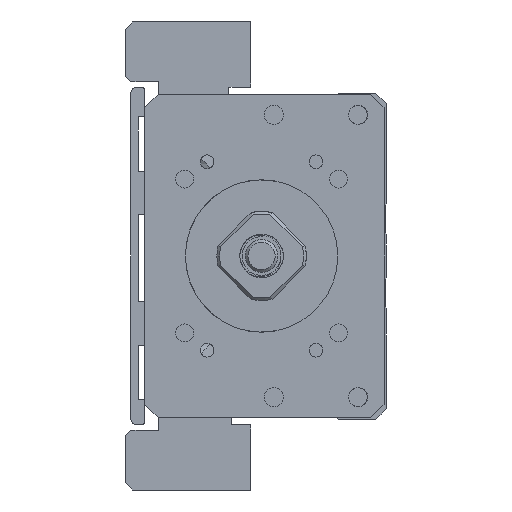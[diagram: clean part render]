
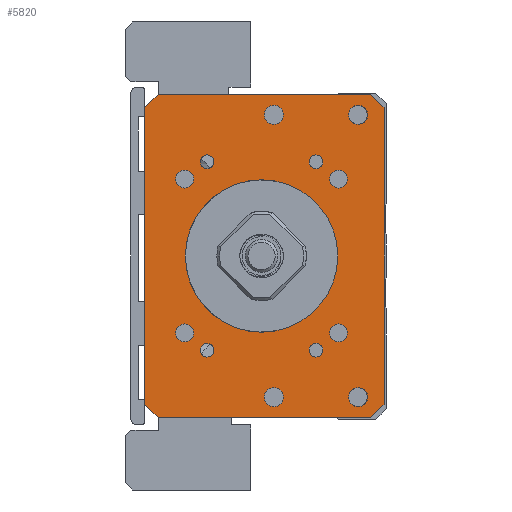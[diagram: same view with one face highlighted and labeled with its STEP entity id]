
A CAD part, left-side view. The second image highlights one B-rep face of the part: STEP entity #5820.
In plain terms, the highlighted planar face has unit normal (-1, 0, 0).
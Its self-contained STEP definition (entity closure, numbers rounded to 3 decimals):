
#4654=FACE_BOUND('',#7598,.T.);
#4655=FACE_BOUND('',#7599,.T.);
#4656=FACE_BOUND('',#7600,.T.);
#4657=FACE_BOUND('',#7601,.T.);
#4658=FACE_BOUND('',#7602,.T.);
#4659=FACE_BOUND('',#7603,.T.);
#4660=FACE_BOUND('',#7604,.T.);
#4661=FACE_BOUND('',#7605,.T.);
#4662=FACE_BOUND('',#7606,.T.);
#4663=FACE_BOUND('',#7607,.T.);
#4664=FACE_BOUND('',#7608,.T.);
#4665=FACE_BOUND('',#7609,.T.);
#4666=FACE_BOUND('',#7610,.T.);
#4667=FACE_BOUND('',#7611,.T.);
#5186=CIRCLE('',#16341,14.);
#5195=CIRCLE('',#16352,1.65);
#5196=CIRCLE('',#16353,1.65);
#5197=CIRCLE('',#16354,1.65);
#5198=CIRCLE('',#16355,1.65);
#5199=CIRCLE('',#16356,1.25);
#5200=CIRCLE('',#16357,1.75);
#5201=CIRCLE('',#16358,1.25);
#5202=CIRCLE('',#16359,1.75);
#5203=CIRCLE('',#16360,1.25);
#5204=CIRCLE('',#16361,1.75);
#5205=CIRCLE('',#16362,1.75);
#5206=CIRCLE('',#16363,1.25);
#5820=ADVANCED_FACE('',(#4654,#4655,#4656,#4657,#4658,#4659,#4660,#4661,
#4662,#4663,#4664,#4665,#4666,#4667),#6329,.F.);
#6329=PLANE('',#16364);
#7598=EDGE_LOOP('',(#10256));
#7599=EDGE_LOOP('',(#10257));
#7600=EDGE_LOOP('',(#10258));
#7601=EDGE_LOOP('',(#10259));
#7602=EDGE_LOOP('',(#10260));
#7603=EDGE_LOOP('',(#10261));
#7604=EDGE_LOOP('',(#10262));
#7605=EDGE_LOOP('',(#10263));
#7606=EDGE_LOOP('',(#10264));
#7607=EDGE_LOOP('',(#10265,#10266,#10267,#10268,#10269,#10270,#10271,#10272));
#7608=EDGE_LOOP('',(#10273));
#7609=EDGE_LOOP('',(#10274));
#7610=EDGE_LOOP('',(#10275));
#7611=EDGE_LOOP('',(#10276));
#10256=ORIENTED_EDGE('',*,*,#13238,.F.);
#10257=ORIENTED_EDGE('',*,*,#13239,.F.);
#10258=ORIENTED_EDGE('',*,*,#13240,.F.);
#10259=ORIENTED_EDGE('',*,*,#13241,.F.);
#10260=ORIENTED_EDGE('',*,*,#13242,.F.);
#10261=ORIENTED_EDGE('',*,*,#13243,.T.);
#10262=ORIENTED_EDGE('',*,*,#13244,.F.);
#10263=ORIENTED_EDGE('',*,*,#13245,.F.);
#10264=ORIENTED_EDGE('',*,*,#13246,.F.);
#10265=ORIENTED_EDGE('',*,*,#13235,.T.);
#10266=ORIENTED_EDGE('',*,*,#13247,.T.);
#10267=ORIENTED_EDGE('',*,*,#13248,.F.);
#10268=ORIENTED_EDGE('',*,*,#13249,.T.);
#10269=ORIENTED_EDGE('',*,*,#13250,.F.);
#10270=ORIENTED_EDGE('',*,*,#13251,.T.);
#10271=ORIENTED_EDGE('',*,*,#13252,.T.);
#10272=ORIENTED_EDGE('',*,*,#13253,.T.);
#10273=ORIENTED_EDGE('',*,*,#13254,.F.);
#10274=ORIENTED_EDGE('',*,*,#13255,.F.);
#10275=ORIENTED_EDGE('',*,*,#13256,.F.);
#10276=ORIENTED_EDGE('',*,*,#13215,.F.);
#11790=VERTEX_POINT('',#22938);
#11810=VERTEX_POINT('',#22998);
#11811=VERTEX_POINT('',#23000);
#11813=VERTEX_POINT('',#23006);
#11814=VERTEX_POINT('',#23008);
#11815=VERTEX_POINT('',#23010);
#11816=VERTEX_POINT('',#23012);
#11817=VERTEX_POINT('',#23014);
#11818=VERTEX_POINT('',#23016);
#11819=VERTEX_POINT('',#23018);
#11820=VERTEX_POINT('',#23020);
#11821=VERTEX_POINT('',#23022);
#11822=VERTEX_POINT('',#23024);
#11823=VERTEX_POINT('',#23026);
#11824=VERTEX_POINT('',#23028);
#11825=VERTEX_POINT('',#23030);
#11826=VERTEX_POINT('',#23032);
#11827=VERTEX_POINT('',#23034);
#11828=VERTEX_POINT('',#23037);
#11829=VERTEX_POINT('',#23039);
#11830=VERTEX_POINT('',#23041);
#13215=EDGE_CURVE('',#11790,#11790,#5186,.T.);
#13235=EDGE_CURVE('',#11811,#11810,#14399,.T.);
#13238=EDGE_CURVE('',#11813,#11813,#5195,.T.);
#13239=EDGE_CURVE('',#11814,#11814,#5196,.T.);
#13240=EDGE_CURVE('',#11815,#11815,#5197,.T.);
#13241=EDGE_CURVE('',#11816,#11816,#5198,.T.);
#13242=EDGE_CURVE('',#11817,#11817,#5199,.T.);
#13243=EDGE_CURVE('',#11818,#11818,#5200,.T.);
#13244=EDGE_CURVE('',#11819,#11819,#5201,.T.);
#13245=EDGE_CURVE('',#11820,#11820,#5202,.T.);
#13246=EDGE_CURVE('',#11821,#11821,#5203,.T.);
#13247=EDGE_CURVE('',#11810,#11822,#14401,.T.);
#13248=EDGE_CURVE('',#11823,#11822,#14402,.T.);
#13249=EDGE_CURVE('',#11823,#11824,#14403,.T.);
#13250=EDGE_CURVE('',#11825,#11824,#14404,.T.);
#13251=EDGE_CURVE('',#11825,#11826,#14405,.T.);
#13252=EDGE_CURVE('',#11826,#11827,#14406,.T.);
#13253=EDGE_CURVE('',#11827,#11811,#14407,.T.);
#13254=EDGE_CURVE('',#11828,#11828,#5204,.T.);
#13255=EDGE_CURVE('',#11829,#11829,#5205,.T.);
#13256=EDGE_CURVE('',#11830,#11830,#5206,.T.);
#14399=LINE('',#22999,#15364);
#14401=LINE('',#23023,#15366);
#14402=LINE('',#23025,#15367);
#14403=LINE('',#23027,#15368);
#14404=LINE('',#23029,#15369);
#14405=LINE('',#23031,#15370);
#14406=LINE('',#23033,#15371);
#14407=LINE('',#23035,#15372);
#15364=VECTOR('',#19136,1.);
#15366=VECTOR('',#19160,1.);
#15367=VECTOR('',#19161,1.);
#15368=VECTOR('',#19162,1.);
#15369=VECTOR('',#19163,1.);
#15370=VECTOR('',#19164,1.);
#15371=VECTOR('',#19165,1.);
#15372=VECTOR('',#19166,1.);
#16341=AXIS2_PLACEMENT_3D('',#22937,#19110,#19111);
#16352=AXIS2_PLACEMENT_3D('',#23005,#19142,#19143);
#16353=AXIS2_PLACEMENT_3D('',#23007,#19144,#19145);
#16354=AXIS2_PLACEMENT_3D('',#23009,#19146,#19147);
#16355=AXIS2_PLACEMENT_3D('',#23011,#19148,#19149);
#16356=AXIS2_PLACEMENT_3D('',#23013,#19150,#19151);
#16357=AXIS2_PLACEMENT_3D('',#23015,#19152,#19153);
#16358=AXIS2_PLACEMENT_3D('',#23017,#19154,#19155);
#16359=AXIS2_PLACEMENT_3D('',#23019,#19156,#19157);
#16360=AXIS2_PLACEMENT_3D('',#23021,#19158,#19159);
#16361=AXIS2_PLACEMENT_3D('',#23036,#19167,#19168);
#16362=AXIS2_PLACEMENT_3D('',#23038,#19169,#19170);
#16363=AXIS2_PLACEMENT_3D('',#23040,#19171,#19172);
#16364=AXIS2_PLACEMENT_3D('',#23042,#19173,#19174);
#19110=DIRECTION('',(-1.,0.,0.));
#19111=DIRECTION('',(0.,1.,0.));
#19136=DIRECTION('',(0.,0.,-1.));
#19142=DIRECTION('',(-1.,0.,0.));
#19143=DIRECTION('',(0.,0.,1.));
#19144=DIRECTION('',(-1.,0.,0.));
#19145=DIRECTION('',(0.,0.,1.));
#19146=DIRECTION('',(-1.,0.,0.));
#19147=DIRECTION('',(0.,0.,1.));
#19148=DIRECTION('',(-1.,0.,0.));
#19149=DIRECTION('',(0.,0.,1.));
#19150=DIRECTION('',(-1.,0.,0.));
#19151=DIRECTION('',(0.,1.,0.));
#19152=DIRECTION('',(1.,0.,0.));
#19153=DIRECTION('',(0.,0.,1.));
#19154=DIRECTION('',(-1.,0.,0.));
#19155=DIRECTION('',(0.,1.,0.));
#19156=DIRECTION('',(-1.,0.,0.));
#19157=DIRECTION('',(0.,0.,1.));
#19158=DIRECTION('',(-1.,0.,0.));
#19159=DIRECTION('',(0.,1.,0.));
#19160=DIRECTION('',(0.,-0.707,-0.707));
#19161=DIRECTION('',(0.,1.,0.));
#19162=DIRECTION('',(0.,-0.707,0.707));
#19163=DIRECTION('',(0.,0.,-1.));
#19164=DIRECTION('',(0.,0.707,0.707));
#19165=DIRECTION('',(0.,1.,0.));
#19166=DIRECTION('',(0.,0.707,-0.707));
#19167=DIRECTION('',(-1.,0.,0.));
#19168=DIRECTION('',(0.,0.,1.));
#19169=DIRECTION('',(-1.,0.,0.));
#19170=DIRECTION('',(0.,0.,1.));
#19171=DIRECTION('',(-1.,0.,0.));
#19172=DIRECTION('',(0.,1.,0.));
#19173=DIRECTION('',(1.,0.,0.));
#19174=DIRECTION('',(0.,1.,0.));
#22937=CARTESIAN_POINT('',(-211.,0.,-500.));
#22938=CARTESIAN_POINT('',(-211.,14.,-500.));
#22998=CARTESIAN_POINT('',(-211.,21.499,-527.25));
#22999=CARTESIAN_POINT('',(-211.,21.499,-470.25));
#23000=CARTESIAN_POINT('',(-211.,21.499,-472.75));
#23005=CARTESIAN_POINT('',(-211.,14.142,-485.858));
#23006=CARTESIAN_POINT('',(-211.,14.142,-484.208));
#23007=CARTESIAN_POINT('',(-211.,-14.142,-485.858));
#23008=CARTESIAN_POINT('',(-211.,-14.142,-484.208));
#23009=CARTESIAN_POINT('',(-211.,14.142,-514.142));
#23010=CARTESIAN_POINT('',(-211.,14.142,-512.492));
#23011=CARTESIAN_POINT('',(-211.,-14.142,-514.142));
#23012=CARTESIAN_POINT('',(-211.,-14.142,-512.492));
#23013=CARTESIAN_POINT('',(-211.,-10.,-517.321));
#23014=CARTESIAN_POINT('',(-211.,-8.75,-517.321));
#23015=CARTESIAN_POINT('',(-211.,-2.25,-525.936));
#23016=CARTESIAN_POINT('',(-211.,-2.25,-524.186));
#23017=CARTESIAN_POINT('',(-211.,10.,-482.679));
#23018=CARTESIAN_POINT('',(-211.,11.25,-482.679));
#23019=CARTESIAN_POINT('',(-211.,-2.25,-474.064));
#23020=CARTESIAN_POINT('',(-211.,-2.25,-472.314));
#23021=CARTESIAN_POINT('',(-211.,10.,-517.321));
#23022=CARTESIAN_POINT('',(-211.,11.25,-517.321));
#23023=CARTESIAN_POINT('',(-211.,18.999,-529.75));
#23024=CARTESIAN_POINT('',(-211.,18.999,-529.75));
#23025=CARTESIAN_POINT('',(-211.,-22.501,-529.75));
#23026=CARTESIAN_POINT('',(-211.,-20.001,-529.75));
#23027=CARTESIAN_POINT('',(-211.,-22.501,-527.25));
#23028=CARTESIAN_POINT('',(-211.,-22.501,-527.25));
#23029=CARTESIAN_POINT('',(-211.,-22.501,-470.25));
#23030=CARTESIAN_POINT('',(-211.,-22.501,-472.75));
#23031=CARTESIAN_POINT('',(-211.,-22.501,-472.75));
#23032=CARTESIAN_POINT('',(-211.,-20.001,-470.25));
#23033=CARTESIAN_POINT('',(-211.,-22.501,-470.25));
#23034=CARTESIAN_POINT('',(-211.,18.999,-470.25));
#23035=CARTESIAN_POINT('',(-211.,18.999,-470.25));
#23036=CARTESIAN_POINT('',(-211.,-17.75,-474.064));
#23037=CARTESIAN_POINT('',(-211.,-17.75,-472.314));
#23038=CARTESIAN_POINT('',(-211.,-17.75,-525.936));
#23039=CARTESIAN_POINT('',(-211.,-17.75,-524.186));
#23040=CARTESIAN_POINT('',(-211.,-10.,-482.679));
#23041=CARTESIAN_POINT('',(-211.,-8.75,-482.679));
#23042=CARTESIAN_POINT('',(-211.,-22.501,-470.25));
